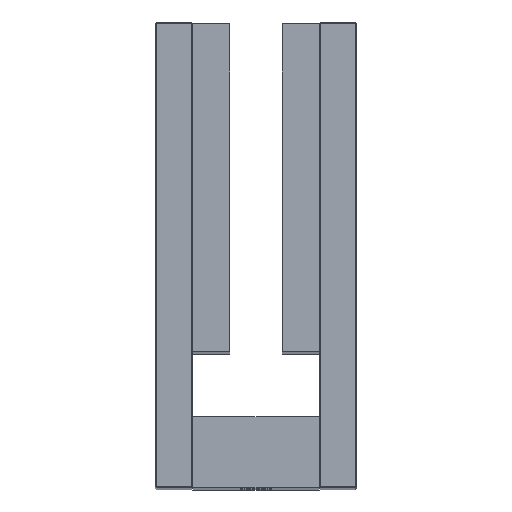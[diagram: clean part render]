
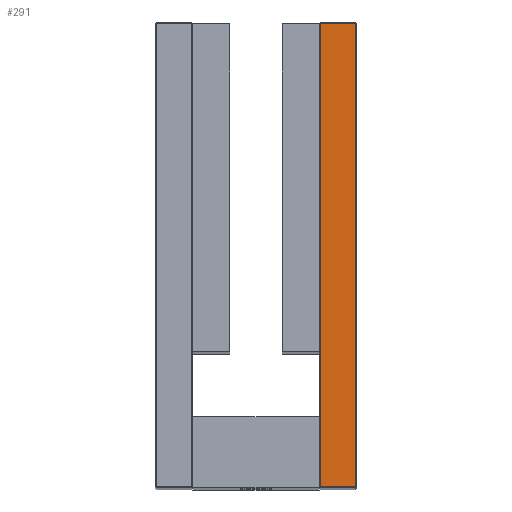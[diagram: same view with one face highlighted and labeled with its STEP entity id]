
A CAD part, top view. The second image highlights one B-rep face of the part: STEP entity #291.
In plain terms, the highlighted planar face has unit normal (0, 0, 1) as drawn and (0, 1, 0) by its records, which use the part's own axes.
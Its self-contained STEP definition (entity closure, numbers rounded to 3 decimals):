
#291 = ADVANCED_FACE ( 'NONE', ( #14436 ), #7654, .F. ) ;
#1546 = LINE ( 'NONE', #21813, #16151 ) ;
#3978 = CARTESIAN_POINT ( 'NONE',  ( 124.7, 359.5, -0.3 ) ) ;
#4587 = CARTESIAN_POINT ( 'NONE',  ( 124.7, 359.5, -9.7 ) ) ;
#4832 = DIRECTION ( 'NONE',  ( -1., 0., 0. ) ) ;
#5482 = VECTOR ( 'NONE', #8841, 1000. ) ;
#5536 = ORIENTED_EDGE ( 'NONE', *, *, #24905, .T. ) ;
#6771 = ORIENTED_EDGE ( 'NONE', *, *, #19858, .T. ) ;
#6833 = VERTEX_POINT ( 'NONE', #4587 ) ;
#6840 = CARTESIAN_POINT ( 'NONE',  ( 0.3, 359.5, 0. ) ) ;
#7252 = DIRECTION ( 'NONE',  ( 0., 0., -1. ) ) ;
#7328 = DIRECTION ( 'NONE',  ( 0., -1., 0. ) ) ;
#7654 = PLANE ( 'NONE',  #13101 ) ;
#8470 = CARTESIAN_POINT ( 'NONE',  ( 0.3, 359.5, -0.3 ) ) ;
#8841 = DIRECTION ( 'NONE',  ( 0., 0., 1. ) ) ;
#8959 = CARTESIAN_POINT ( 'NONE',  ( 0., 359.5, -9.7 ) ) ;
#9335 = CARTESIAN_POINT ( 'NONE',  ( 0., 359.5, 0. ) ) ;
#9731 = VECTOR ( 'NONE', #14221, 1000. ) ;
#10101 = DIRECTION ( 'NONE',  ( 0., 0., -1. ) ) ;
#10378 = LINE ( 'NONE', #22190, #9731 ) ;
#10470 = ORIENTED_EDGE ( 'NONE', *, *, #20601, .T. ) ;
#10828 = LINE ( 'NONE', #6840, #5482 ) ;
#13101 = AXIS2_PLACEMENT_3D ( 'NONE', #9335, #7328, #7252 ) ;
#14221 = DIRECTION ( 'NONE',  ( 1., 0., 0. ) ) ;
#14436 = FACE_OUTER_BOUND ( 'NONE', #24006, .T. ) ;
#14690 = VECTOR ( 'NONE', #4832, 1000. ) ;
#15298 = LINE ( 'NONE', #8959, #14690 ) ;
#15641 = ORIENTED_EDGE ( 'NONE', *, *, #22226, .T. ) ;
#16151 = VECTOR ( 'NONE', #10101, 1000. ) ;
#17318 = VERTEX_POINT ( 'NONE', #8470 ) ;
#17925 = CARTESIAN_POINT ( 'NONE',  ( 0.3, 359.5, -9.7 ) ) ;
#19858 = EDGE_CURVE ( 'NONE', #17318, #20257, #10378, .T. ) ;
#20257 = VERTEX_POINT ( 'NONE', #3978 ) ;
#20601 = EDGE_CURVE ( 'NONE', #6833, #23112, #15298, .T. ) ;
#21813 = CARTESIAN_POINT ( 'NONE',  ( 124.7, 359.5, 0. ) ) ;
#22190 = CARTESIAN_POINT ( 'NONE',  ( 0., 359.5, -0.3 ) ) ;
#22226 = EDGE_CURVE ( 'NONE', #20257, #6833, #1546, .T. ) ;
#23112 = VERTEX_POINT ( 'NONE', #17925 ) ;
#24006 = EDGE_LOOP ( 'NONE', ( #10470, #5536, #6771, #15641 ) ) ;
#24905 = EDGE_CURVE ( 'NONE', #23112, #17318, #10828, .T. ) ;
